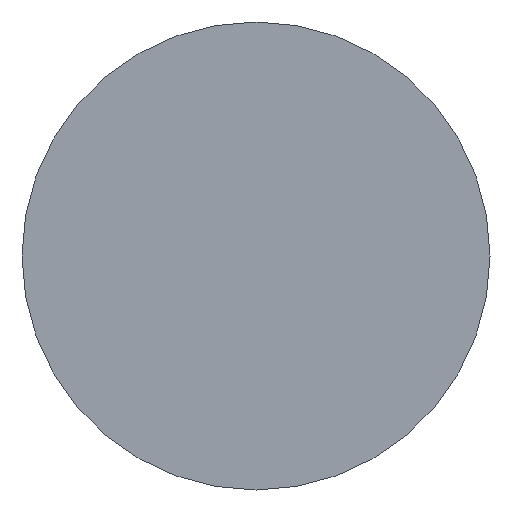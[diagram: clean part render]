
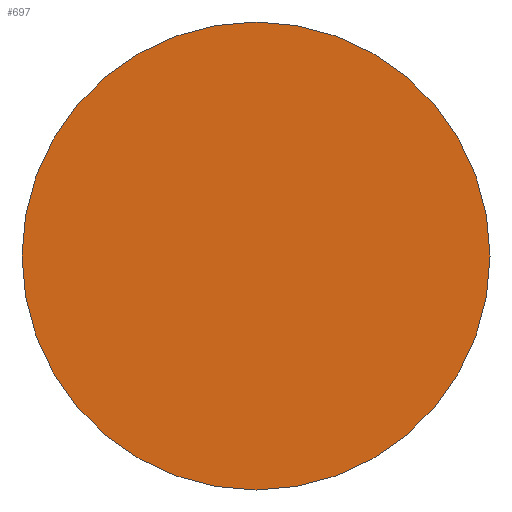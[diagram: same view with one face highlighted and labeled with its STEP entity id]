
A CAD part, front view. The second image highlights one B-rep face of the part: STEP entity #697.
In plain terms, the highlighted planar face has unit normal (0, -1, 0).
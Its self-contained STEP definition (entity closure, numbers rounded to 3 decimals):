
#604=CARTESIAN_POINT('',(0.,0.,0.));
#605=DIRECTION('',(0.,1.,0.));
#606=DIRECTION('',(1.,0.,0.));
#607=AXIS2_PLACEMENT_3D('',#604,#605,#606);
#609=CARTESIAN_POINT('',(0.,0.,0.));
#610=DIRECTION('',(0.,1.,0.));
#611=DIRECTION('',(-1.,0.,0.));
#612=AXIS2_PLACEMENT_3D('',#609,#610,#611);
#668=CARTESIAN_POINT('',(9.5,0.,0.));
#669=CARTESIAN_POINT('',(-9.5,0.,0.));
#670=VERTEX_POINT('',#668);
#671=VERTEX_POINT('',#669);
#686=CARTESIAN_POINT('',(0.,0.,0.));
#687=DIRECTION('',(0.,1.,0.));
#688=DIRECTION('',(1.,0.,0.));
#689=AXIS2_PLACEMENT_3D('',#686,#687,#688);
#690=PLANE('',#689);
#692=ORIENTED_EDGE('',*,*,#691,.T.);
#694=ORIENTED_EDGE('',*,*,#693,.T.);
#695=EDGE_LOOP('',(#692,#694));
#696=FACE_OUTER_BOUND('',#695,.F.);
#697=ADVANCED_FACE('',(#696),#690,.F.);
#608=CIRCLE('',#607,9.5);
#613=CIRCLE('',#612,9.5);
#691=EDGE_CURVE('',#670,#671,#608,.T.);
#693=EDGE_CURVE('',#671,#670,#613,.T.);
